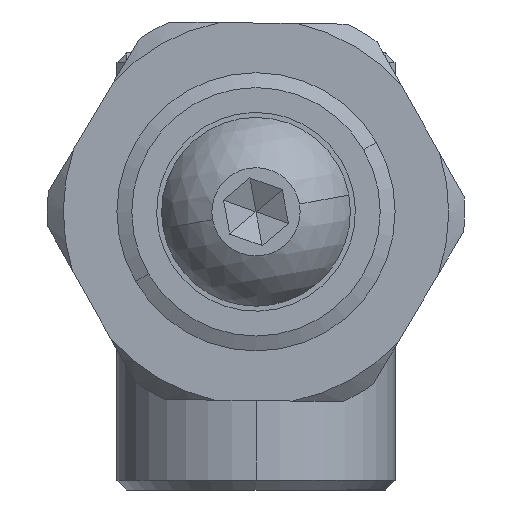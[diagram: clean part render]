
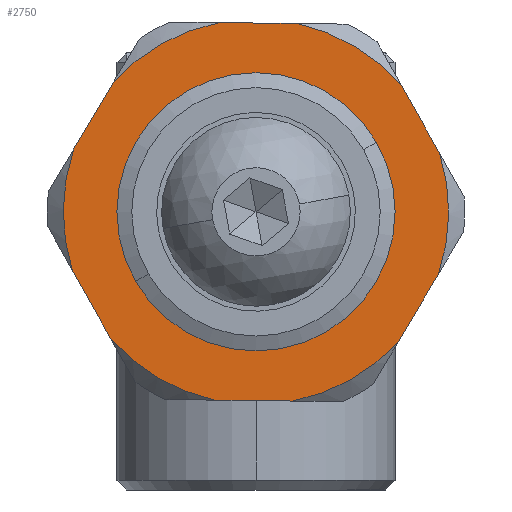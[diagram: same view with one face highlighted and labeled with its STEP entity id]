
A CAD part, front view. The second image highlights one B-rep face of the part: STEP entity #2750.
In plain terms, the highlighted planar face has unit normal (0, -1, 0).
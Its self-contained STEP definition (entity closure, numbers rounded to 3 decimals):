
#283 = AXIS2_PLACEMENT_3D ( 'NONE', #47878, #24670, #1629 ) ;
#364 = CARTESIAN_POINT ( 'NONE',  ( 15.17, -88.5, 9.152 ) ) ;
#393 = DIRECTION ( 'NONE',  ( 0.872, 0., 0.49 ) ) ;
#800 = VECTOR ( 'NONE', #23438, 1000. ) ;
#996 = DIRECTION ( 'NONE',  ( 0.872, 0., 0.49 ) ) ;
#1424 = CIRCLE ( 'NONE', #21290, 9.7 ) ;
#1629 = DIRECTION ( 'NONE',  ( 0.872, 0., 0.49 ) ) ;
#2153 = CARTESIAN_POINT ( 'NONE',  ( 7., -88.5, 14. ) ) ;
#2288 = EDGE_CURVE ( 'NONE', #42373, #13573, #44426, .T. ) ;
#2750 = ADVANCED_FACE ( 'NONE', ( #38336, #47432 ), #37686, .F. ) ;
#3088 = DIRECTION ( 'NONE',  ( 0., 1., 0. ) ) ;
#3097 = CARTESIAN_POINT ( 'NONE',  ( 7., -88.5, 14. ) ) ;
#3461 = CARTESIAN_POINT ( 'NONE',  ( 7., -88.5, 14. ) ) ;
#3900 = VECTOR ( 'NONE', #38070, 1000. ) ;
#4584 = DIRECTION ( 'NONE',  ( -0.51, 0., -0.86 ) ) ;
#6005 = DIRECTION ( 'NONE',  ( 0.872, 0., 0.49 ) ) ;
#6111 = EDGE_CURVE ( 'NONE', #15852, #40057, #46413, .T. ) ;
#6501 = ORIENTED_EDGE ( 'NONE', *, *, #45810, .T. ) ;
#6942 = DIRECTION ( 'NONE',  ( 0.872, 0., 0.49 ) ) ;
#7319 = DIRECTION ( 'NONE',  ( 0.872, 0., 0.49 ) ) ;
#7340 = CARTESIAN_POINT ( 'NONE',  ( -0.17, -88.5, 20.533 ) ) ;
#7413 = ORIENTED_EDGE ( 'NONE', *, *, #6111, .T. ) ;
#7497 = CARTESIAN_POINT ( 'NONE',  ( 7., -88.5, 14. ) ) ;
#7616 = LINE ( 'NONE', #27677, #28143 ) ;
#7801 = DIRECTION ( 'NONE',  ( -1., 0., 0.012 ) ) ;
#7851 = VERTEX_POINT ( 'NONE', #49779 ) ;
#9338 = AXIS2_PLACEMENT_3D ( 'NONE', #46666, #23463, #393 ) ;
#9877 = CIRCLE ( 'NONE', #30211, 9.7 ) ;
#10648 = EDGE_CURVE ( 'NONE', #17848, #15852, #28542, .T. ) ;
#11095 = EDGE_CURVE ( 'NONE', #13573, #44503, #7616, .T. ) ;
#11383 = DIRECTION ( 'NONE',  ( 0.872, 0., 0.49 ) ) ;
#11409 = AXIS2_PLACEMENT_3D ( 'NONE', #47267, #24079, #996 ) ;
#12260 = AXIS2_PLACEMENT_3D ( 'NONE', #3461, #30441, #7319 ) ;
#13021 = ORIENTED_EDGE ( 'NONE', *, *, #44945, .T. ) ;
#13573 = VERTEX_POINT ( 'NONE', #7340 ) ;
#14128 = ORIENTED_EDGE ( 'NONE', *, *, #31379, .T. ) ;
#14265 = ORIENTED_EDGE ( 'NONE', *, *, #10648, .T. ) ;
#15015 = ORIENTED_EDGE ( 'NONE', *, *, #38831, .T. ) ;
#15288 = ORIENTED_EDGE ( 'NONE', *, *, #22421, .T. ) ;
#15366 = ORIENTED_EDGE ( 'NONE', *, *, #37783, .T. ) ;
#15852 = VERTEX_POINT ( 'NONE', #48219 ) ;
#16242 = CARTESIAN_POINT ( 'NONE',  ( -1.283, -88.5, 9.348 ) ) ;
#16457 = ORIENTED_EDGE ( 'NONE', *, *, #2288, .T. ) ;
#17400 = VECTOR ( 'NONE', #7801, 1000. ) ;
#17421 = ORIENTED_EDGE ( 'NONE', *, *, #39029, .T. ) ;
#17848 = VERTEX_POINT ( 'NONE', #31409 ) ;
#18671 = ORIENTED_EDGE ( 'NONE', *, *, #30360, .T. ) ;
#18879 = CARTESIAN_POINT ( 'NONE',  ( 5.154, -88.5, 23.523 ) ) ;
#18986 = CARTESIAN_POINT ( 'NONE',  ( 15.283, -88.5, 18.652 ) ) ;
#19510 = EDGE_CURVE ( 'NONE', #30646, #43878, #24523, .T. ) ;
#20703 = DIRECTION ( 'NONE',  ( 0., 1., 0. ) ) ;
#21290 = AXIS2_PLACEMENT_3D ( 'NONE', #2153, #29138, #6005 ) ;
#21305 = LINE ( 'NONE', #364, #800 ) ;
#21642 = CARTESIAN_POINT ( 'NONE',  ( 6.887, -88.5, 4.501 ) ) ;
#21904 = EDGE_LOOP ( 'NONE', ( #13021, #6501 ) ) ;
#22421 = EDGE_CURVE ( 'NONE', #44503, #28084, #9877, .T. ) ;
#22651 = CARTESIAN_POINT ( 'NONE',  ( -2.17, -88.5, 17.162 ) ) ;
#23438 = DIRECTION ( 'NONE',  ( 0.51, 0., 0.86 ) ) ;
#23463 = DIRECTION ( 'NONE',  ( 0., -1., 0. ) ) ;
#23925 = VERTEX_POINT ( 'NONE', #28518 ) ;
#24079 = DIRECTION ( 'NONE',  ( 0., -1., 0. ) ) ;
#24303 = DIRECTION ( 'NONE',  ( 0.49, 0., -0.872 ) ) ;
#24508 = CIRCLE ( 'NONE', #28764, 6.25 ) ;
#24523 = CIRCLE ( 'NONE', #9338, 9.7 ) ;
#24670 = DIRECTION ( 'NONE',  ( 0., -1., 0. ) ) ;
#25521 = DIRECTION ( 'NONE',  ( 1., 0., -0.012 ) ) ;
#26159 = CARTESIAN_POINT ( 'NONE',  ( 7., -88.5, 14. ) ) ;
#26227 = ORIENTED_EDGE ( 'NONE', *, *, #26349, .T. ) ;
#26349 = EDGE_CURVE ( 'NONE', #43878, #23925, #33462, .T. ) ;
#27677 = CARTESIAN_POINT ( 'NONE',  ( -1.17, -88.5, 18.848 ) ) ;
#28084 = VERTEX_POINT ( 'NONE', #42957 ) ;
#28143 = VECTOR ( 'NONE', #4584, 1000. ) ;
#28485 = VERTEX_POINT ( 'NONE', #49620 ) ;
#28518 = CARTESIAN_POINT ( 'NONE',  ( 14.324, -88.5, 20.36 ) ) ;
#28542 = CIRCLE ( 'NONE', #283, 9.7 ) ;
#28764 = AXIS2_PLACEMENT_3D ( 'NONE', #43901, #20703, #47748 ) ;
#29138 = DIRECTION ( 'NONE',  ( 0., -1., 0. ) ) ;
#30053 = DIRECTION ( 'NONE',  ( 0.872, 0., 0.49 ) ) ;
#30070 = DIRECTION ( 'NONE',  ( 0., 1., 0. ) ) ;
#30211 = AXIS2_PLACEMENT_3D ( 'NONE', #7497, #34470, #11383 ) ;
#30360 = EDGE_CURVE ( 'NONE', #40057, #44379, #1424, .T. ) ;
#30441 = DIRECTION ( 'NONE',  ( 0., -1., 0. ) ) ;
#30646 = VERTEX_POINT ( 'NONE', #42170 ) ;
#31196 = CIRCLE ( 'NONE', #38105, 6.25 ) ;
#31379 = EDGE_CURVE ( 'NONE', #44379, #30646, #21305, .T. ) ;
#31409 = CARTESIAN_POINT ( 'NONE',  ( -0.324, -88.5, 7.64 ) ) ;
#31511 = CARTESIAN_POINT ( 'NONE',  ( 9.073, -88.5, 23.476 ) ) ;
#32623 = CIRCLE ( 'NONE', #11409, 9.7 ) ;
#33462 = LINE ( 'NONE', #18986, #3900 ) ;
#33690 = CARTESIAN_POINT ( 'NONE',  ( 16.243, -88.5, 16.943 ) ) ;
#34470 = DIRECTION ( 'NONE',  ( 0., -1., 0. ) ) ;
#36755 = ORIENTED_EDGE ( 'NONE', *, *, #19510, .T. ) ;
#37284 = VECTOR ( 'NONE', #24303, 1000. ) ;
#37686 = PLANE ( 'NONE',  #40453 ) ;
#37783 = EDGE_CURVE ( 'NONE', #23925, #48544, #32623, .T. ) ;
#38070 = DIRECTION ( 'NONE',  ( -0.49, 0., 0.872 ) ) ;
#38105 = AXIS2_PLACEMENT_3D ( 'NONE', #26159, #3088, #30053 ) ;
#38189 = CARTESIAN_POINT ( 'NONE',  ( 8.846, -88.5, 4.477 ) ) ;
#38336 = FACE_BOUND ( 'NONE', #21904, .T. ) ;
#38831 = EDGE_CURVE ( 'NONE', #48544, #42373, #49421, .T. ) ;
#39029 = EDGE_CURVE ( 'NONE', #28084, #17848, #47606, .T. ) ;
#40057 = VERTEX_POINT ( 'NONE', #38189 ) ;
#40453 = AXIS2_PLACEMENT_3D ( 'NONE', #3097, #30070, #6942 ) ;
#41137 = CARTESIAN_POINT ( 'NONE',  ( 14.17, -88.5, 7.467 ) ) ;
#42170 = CARTESIAN_POINT ( 'NONE',  ( 16.17, -88.5, 10.838 ) ) ;
#42373 = VERTEX_POINT ( 'NONE', #18879 ) ;
#42651 = CARTESIAN_POINT ( 'NONE',  ( 7.113, -88.5, 23.499 ) ) ;
#42957 = CARTESIAN_POINT ( 'NONE',  ( -2.243, -88.5, 11.057 ) ) ;
#43878 = VERTEX_POINT ( 'NONE', #33690 ) ;
#43901 = CARTESIAN_POINT ( 'NONE',  ( 7., -88.5, 14. ) ) ;
#44379 = VERTEX_POINT ( 'NONE', #41137 ) ;
#44426 = CIRCLE ( 'NONE', #12260, 9.7 ) ;
#44503 = VERTEX_POINT ( 'NONE', #22651 ) ;
#44945 = EDGE_CURVE ( 'NONE', #28485, #7851, #31196, .T. ) ;
#45388 = EDGE_LOOP ( 'NONE', ( #7413, #18671, #14128, #36755, #26227, #15366, #15015, #16457, #48974, #15288, #17421, #14265 ) ) ;
#45810 = EDGE_CURVE ( 'NONE', #7851, #28485, #24508, .T. ) ;
#46413 = LINE ( 'NONE', #21642, #48838 ) ;
#46666 = CARTESIAN_POINT ( 'NONE',  ( 7., -88.5, 14. ) ) ;
#47267 = CARTESIAN_POINT ( 'NONE',  ( 7., -88.5, 14. ) ) ;
#47432 = FACE_OUTER_BOUND ( 'NONE', #45388, .T. ) ;
#47606 = LINE ( 'NONE', #16242, #37284 ) ;
#47748 = DIRECTION ( 'NONE',  ( 0.872, 0., 0.49 ) ) ;
#47878 = CARTESIAN_POINT ( 'NONE',  ( 7., -88.5, 14. ) ) ;
#48219 = CARTESIAN_POINT ( 'NONE',  ( 4.927, -88.5, 4.524 ) ) ;
#48544 = VERTEX_POINT ( 'NONE', #31511 ) ;
#48838 = VECTOR ( 'NONE', #25521, 1000. ) ;
#48974 = ORIENTED_EDGE ( 'NONE', *, *, #11095, .T. ) ;
#49421 = LINE ( 'NONE', #42651, #17400 ) ;
#49620 = CARTESIAN_POINT ( 'NONE',  ( 12.449, -88.5, 17.06 ) ) ;
#49779 = CARTESIAN_POINT ( 'NONE',  ( 1.551, -88.5, 10.94 ) ) ;
